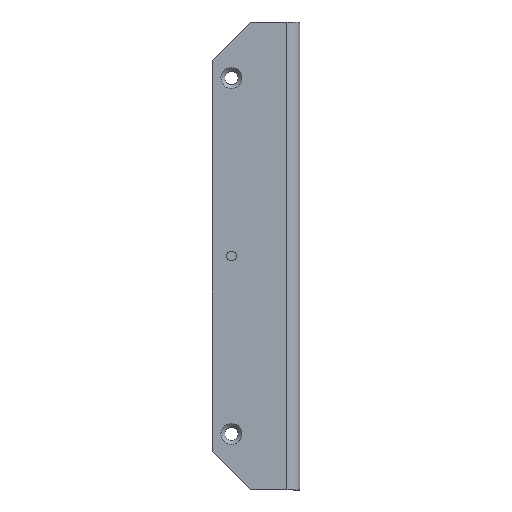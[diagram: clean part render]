
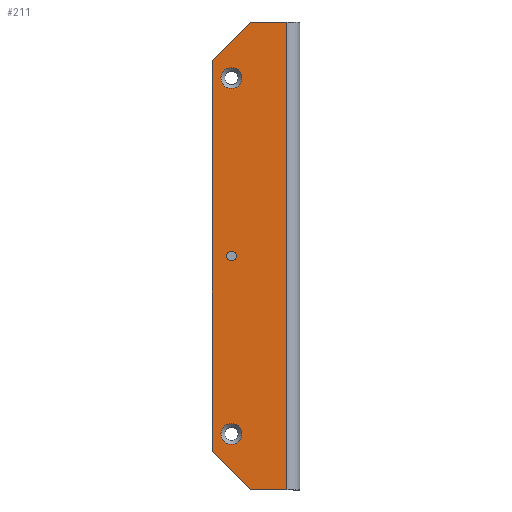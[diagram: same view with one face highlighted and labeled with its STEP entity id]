
A CAD part, top view. The second image highlights one B-rep face of the part: STEP entity #211.
In plain terms, the highlighted planar face has unit normal (0, 0, 1).
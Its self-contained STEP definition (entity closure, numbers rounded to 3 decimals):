
#73=CARTESIAN_POINT('',(-11.2,-72.5,2.0));
#74=VERTEX_POINT('',#73);
#75=CARTESIAN_POINT('',(-23.2,-60.5,2.0));
#76=VERTEX_POINT('',#75);
#77=CARTESIAN_POINT('',(-11.2,-72.5,2.));
#78=DIRECTION('',(-0.707,0.707,0.0));
#79=VECTOR('',#78,16.971);
#80=LINE('',#77,#79);
#81=EDGE_CURVE('',#74,#76,#80,.T.);
#114=CARTESIAN_POINT('',(-23.2,60.5,2.0));
#115=VERTEX_POINT('',#114);
#116=CARTESIAN_POINT('',(-23.2,-60.5,2.0));
#117=DIRECTION('',(0.0,1.0,0.0));
#118=VECTOR('',#117,121.0);
#119=LINE('',#116,#118);
#120=EDGE_CURVE('',#76,#115,#119,.T.);
#139=CARTESIAN_POINT('',(-11.6,0.0,2.0));
#140=DIRECTION('',(0.0,0.0,1.0));
#141=DIRECTION('',(1.0,0.0,0.0));
#142=AXIS2_PLACEMENT_3D('',#139,#140,#141);
#143=PLANE('',#142);
#144=ORIENTED_EDGE('',*,*,#81,.F.);
#145=CARTESIAN_POINT('',(0.,-72.5,2.0));
#146=VERTEX_POINT('',#145);
#147=CARTESIAN_POINT('',(0.,-72.5,2.0));
#148=DIRECTION('',(-1.0,0.0,0.0));
#149=VECTOR('',#148,11.2);
#150=LINE('',#147,#149);
#151=EDGE_CURVE('',#146,#74,#150,.T.);
#152=ORIENTED_EDGE('',*,*,#151,.F.);
#153=CARTESIAN_POINT('',(0.,72.5,2.0));
#154=VERTEX_POINT('',#153);
#155=CARTESIAN_POINT('',(0.,72.5,2.0));
#156=DIRECTION('',(0.0,-1.0,0.0));
#157=VECTOR('',#156,145.0);
#158=LINE('',#155,#157);
#159=EDGE_CURVE('',#154,#146,#158,.T.);
#160=ORIENTED_EDGE('',*,*,#159,.F.);
#161=CARTESIAN_POINT('',(-11.2,72.5,2.0));
#162=VERTEX_POINT('',#161);
#163=CARTESIAN_POINT('',(-11.2,72.5,2.0));
#164=DIRECTION('',(1.0,0.0,0.0));
#165=VECTOR('',#164,11.2);
#166=LINE('',#163,#165);
#167=EDGE_CURVE('',#162,#154,#166,.T.);
#168=ORIENTED_EDGE('',*,*,#167,.F.);
#169=CARTESIAN_POINT('',(-23.2,60.5,2.));
#170=DIRECTION('',(0.707,0.707,0.0));
#171=VECTOR('',#170,16.971);
#172=LINE('',#169,#171);
#173=EDGE_CURVE('',#115,#162,#172,.T.);
#174=ORIENTED_EDGE('',*,*,#173,.F.);
#175=ORIENTED_EDGE('',*,*,#120,.F.);
#176=EDGE_LOOP('',(#144,#152,#160,#168,#174,#175));
#177=FACE_OUTER_BOUND('',#176,.T.);
#178=CARTESIAN_POINT('',(-15.7,0.,2.0));
#179=VERTEX_POINT('',#178);
#180=CARTESIAN_POINT('',(-17.2,0.0,2.0));
#181=DIRECTION('',(0.0,0.0,-1.0));
#182=DIRECTION('',(-1.0,0.0,0.0));
#183=AXIS2_PLACEMENT_3D('',#180,#181,#182);
#184=CIRCLE('',#183,1.5);
#185=EDGE_CURVE('',#179,#179,#184,.T.);
#186=ORIENTED_EDGE('',*,*,#185,.T.);
#187=EDGE_LOOP('',(#186));
#188=FACE_BOUND('',#187,.T.);
#189=CARTESIAN_POINT('',(-13.95,-55.15,2.0));
#190=VERTEX_POINT('',#189);
#191=CARTESIAN_POINT('',(-17.2,-55.15,2.0));
#192=DIRECTION('',(0.0,0.0,-1.0));
#193=DIRECTION('',(1.0,0.0,0.0));
#194=AXIS2_PLACEMENT_3D('',#191,#192,#193);
#195=CIRCLE('',#194,3.25);
#196=EDGE_CURVE('',#190,#190,#195,.T.);
#197=ORIENTED_EDGE('',*,*,#196,.T.);
#198=EDGE_LOOP('',(#197));
#199=FACE_BOUND('',#198,.T.);
#200=CARTESIAN_POINT('',(-13.95,55.15,2.0));
#201=VERTEX_POINT('',#200);
#202=CARTESIAN_POINT('',(-17.2,55.15,2.0));
#203=DIRECTION('',(0.0,0.0,-1.0));
#204=DIRECTION('',(1.0,0.0,0.0));
#205=AXIS2_PLACEMENT_3D('',#202,#203,#204);
#206=CIRCLE('',#205,3.25);
#207=EDGE_CURVE('',#201,#201,#206,.T.);
#208=ORIENTED_EDGE('',*,*,#207,.T.);
#209=EDGE_LOOP('',(#208));
#210=FACE_BOUND('',#209,.T.);
#211=ADVANCED_FACE('',(#177,#188,#199,#210),#143,.T.);
